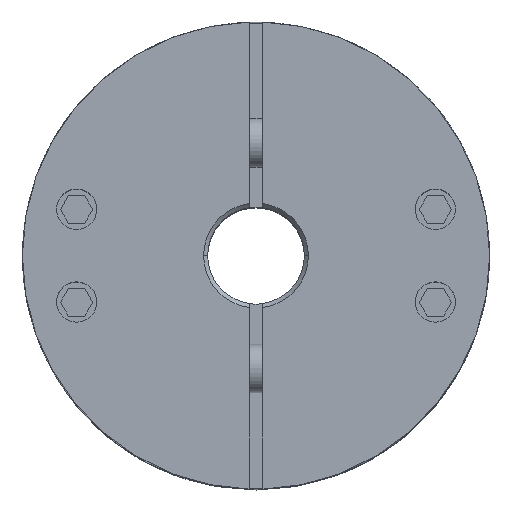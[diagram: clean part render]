
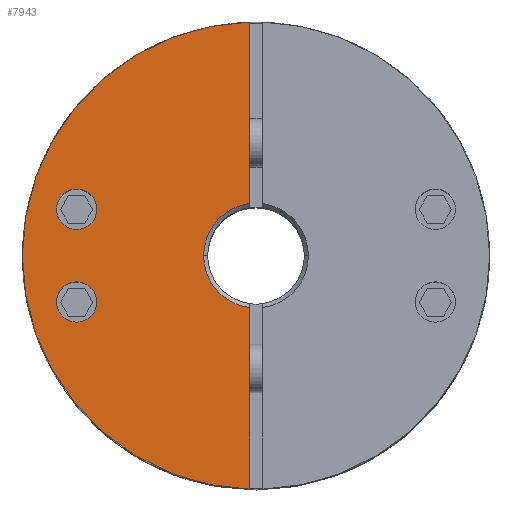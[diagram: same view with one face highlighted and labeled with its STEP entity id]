
A CAD part, top view. The second image highlights one B-rep face of the part: STEP entity #7943.
In plain terms, the highlighted planar face has unit normal (0, 0, 1).
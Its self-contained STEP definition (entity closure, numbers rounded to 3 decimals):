
#4461=CARTESIAN_POINT('',(-19.767,-5.759,27.125));
#4462=VERTEX_POINT('',#4461);
#4471=CARTESIAN_POINT('',(-24.767,-5.759,27.125));
#4472=VERTEX_POINT('',#4471);
#4473=CARTESIAN_POINT('',(-22.267,-5.759,27.125));
#4474=DIRECTION('',(0.0,0.0,-1.0));
#4475=DIRECTION('',(1.0,0.0,0.0));
#4476=AXIS2_PLACEMENT_3D('',#4473,#4474,#4475);
#4477=CIRCLE('',#4476,2.5);
#4478=EDGE_CURVE('',#4472,#4462,#4477,.T.);
#4587=CARTESIAN_POINT('',(-19.767,5.759,27.125));
#4588=VERTEX_POINT('',#4587);
#4597=CARTESIAN_POINT('',(-24.767,5.759,27.125));
#4598=VERTEX_POINT('',#4597);
#4599=CARTESIAN_POINT('',(-22.267,5.759,27.125));
#4600=DIRECTION('',(0.0,0.0,-1.0));
#4601=DIRECTION('',(1.0,0.0,0.0));
#4602=AXIS2_PLACEMENT_3D('',#4599,#4600,#4601);
#4603=CIRCLE('',#4602,2.5);
#4604=EDGE_CURVE('',#4598,#4588,#4603,.T.);
#4816=CARTESIAN_POINT('',(-29.0,0.,27.125));
#4817=VERTEX_POINT('',#4816);
#4824=CARTESIAN_POINT('',(-0.75,28.99,27.125));
#4825=VERTEX_POINT('',#4824);
#4826=CARTESIAN_POINT('',(0.0,0.0,27.125));
#4827=DIRECTION('',(0.0,0.0,-1.0));
#4828=DIRECTION('',(1.0,0.0,0.0));
#4829=AXIS2_PLACEMENT_3D('',#4826,#4827,#4828);
#4830=CIRCLE('',#4829,29.0);
#4831=EDGE_CURVE('',#4817,#4825,#4830,.T.);
#5182=CARTESIAN_POINT('',(-6.5,0.,27.125));
#5183=VERTEX_POINT('',#5182);
#5199=CARTESIAN_POINT('',(-0.75,6.457,27.125));
#5200=VERTEX_POINT('',#5199);
#5214=CARTESIAN_POINT('',(0.0,0.0,27.125));
#5215=DIRECTION('',(0.0,0.0,1.0));
#5216=DIRECTION('',(-1.0,0.0,0.0));
#5217=AXIS2_PLACEMENT_3D('',#5214,#5215,#5216);
#5218=CIRCLE('',#5217,6.5);
#5219=EDGE_CURVE('',#5200,#5183,#5218,.T.);
#7696=CARTESIAN_POINT('',(-0.75,-6.457,27.125));
#7697=VERTEX_POINT('',#7696);
#7698=CARTESIAN_POINT('',(0.0,0.0,27.125));
#7699=DIRECTION('',(0.0,0.0,1.0));
#7700=DIRECTION('',(-1.0,0.0,0.0));
#7701=AXIS2_PLACEMENT_3D('',#7698,#7699,#7700);
#7702=CIRCLE('',#7701,6.5);
#7703=EDGE_CURVE('',#5183,#7697,#7702,.T.);
#7736=CARTESIAN_POINT('',(-0.75,6.457,27.125));
#7737=DIRECTION('',(0.0,1.0,0.0));
#7738=VECTOR('',#7737,22.534);
#7739=LINE('',#7736,#7738);
#7740=EDGE_CURVE('',#5200,#4825,#7739,.T.);
#7850=CARTESIAN_POINT('',(-0.75,-28.99,27.125));
#7851=VERTEX_POINT('',#7850);
#7852=CARTESIAN_POINT('',(-0.75,-28.99,27.125));
#7853=DIRECTION('',(0.0,1.0,0.0));
#7854=VECTOR('',#7853,22.534);
#7855=LINE('',#7852,#7854);
#7856=EDGE_CURVE('',#7851,#7697,#7855,.T.);
#7904=CARTESIAN_POINT('',(2.636,0.,27.125));
#7905=DIRECTION('',(0.0,0.0,1.0));
#7906=DIRECTION('',(1.0,0.0,0.0));
#7907=AXIS2_PLACEMENT_3D('',#7904,#7905,#7906);
#7908=PLANE('',#7907);
#7909=ORIENTED_EDGE('',*,*,#5219,.F.);
#7910=ORIENTED_EDGE('',*,*,#7740,.T.);
#7911=ORIENTED_EDGE('',*,*,#4831,.F.);
#7912=CARTESIAN_POINT('',(0.0,0.0,27.125));
#7913=DIRECTION('',(0.0,0.0,-1.0));
#7914=DIRECTION('',(1.0,0.0,0.0));
#7915=AXIS2_PLACEMENT_3D('',#7912,#7913,#7914);
#7916=CIRCLE('',#7915,29.0);
#7917=EDGE_CURVE('',#7851,#4817,#7916,.T.);
#7918=ORIENTED_EDGE('',*,*,#7917,.F.);
#7919=ORIENTED_EDGE('',*,*,#7856,.T.);
#7920=ORIENTED_EDGE('',*,*,#7703,.F.);
#7921=EDGE_LOOP('',(#7909,#7910,#7911,#7918,#7919,#7920));
#7922=FACE_OUTER_BOUND('',#7921,.T.);
#7923=CARTESIAN_POINT('',(-22.267,-5.759,27.125));
#7924=DIRECTION('',(0.0,0.0,-1.0));
#7925=DIRECTION('',(1.0,0.0,0.0));
#7926=AXIS2_PLACEMENT_3D('',#7923,#7924,#7925);
#7927=CIRCLE('',#7926,2.5);
#7928=EDGE_CURVE('',#4462,#4472,#7927,.T.);
#7929=ORIENTED_EDGE('',*,*,#7928,.T.);
#7930=ORIENTED_EDGE('',*,*,#4478,.T.);
#7931=EDGE_LOOP('',(#7929,#7930));
#7932=FACE_BOUND('',#7931,.T.);
#7933=CARTESIAN_POINT('',(-22.267,5.759,27.125));
#7934=DIRECTION('',(0.0,0.0,-1.0));
#7935=DIRECTION('',(1.0,0.0,0.0));
#7936=AXIS2_PLACEMENT_3D('',#7933,#7934,#7935);
#7937=CIRCLE('',#7936,2.5);
#7938=EDGE_CURVE('',#4588,#4598,#7937,.T.);
#7939=ORIENTED_EDGE('',*,*,#7938,.T.);
#7940=ORIENTED_EDGE('',*,*,#4604,.T.);
#7941=EDGE_LOOP('',(#7939,#7940));
#7942=FACE_BOUND('',#7941,.T.);
#7943=ADVANCED_FACE('',(#7922,#7932,#7942),#7908,.T.);
